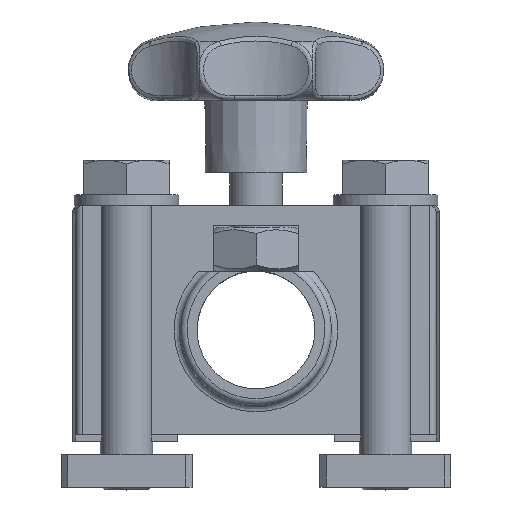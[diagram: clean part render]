
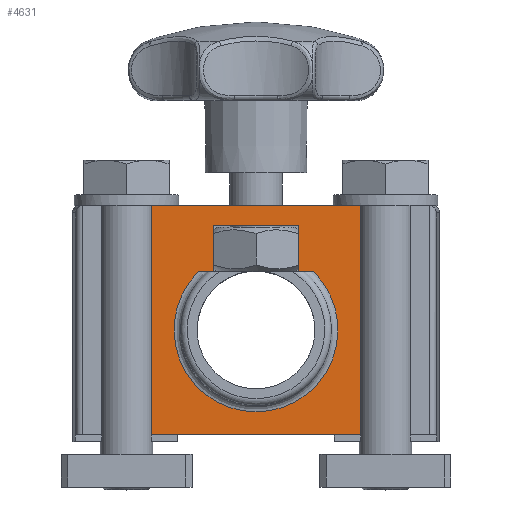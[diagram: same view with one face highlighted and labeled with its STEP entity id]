
A CAD part, top view. The second image highlights one B-rep face of the part: STEP entity #4631.
In plain terms, the highlighted planar face has unit normal (0, 0, 1).
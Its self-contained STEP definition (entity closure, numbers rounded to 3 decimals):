
#1342=CARTESIAN_POINT('',(-16.,-63.,7.0));
#1343=VERTEX_POINT('',#1342);
#1350=CARTESIAN_POINT('',(-16.,-28.,7.0));
#1351=VERTEX_POINT('',#1350);
#1352=CARTESIAN_POINT('',(-16.,-28.,7.0));
#1353=DIRECTION('',(0.0,-1.0,0.0));
#1354=VECTOR('',#1353,35.0);
#1355=LINE('',#1352,#1354);
#1356=EDGE_CURVE('',#1351,#1343,#1355,.T.);
#2512=CARTESIAN_POINT('',(16.,-28.,7.));
#2513=VERTEX_POINT('',#2512);
#2514=CARTESIAN_POINT('',(16.,-28.,7.));
#2515=DIRECTION('',(-1.0,0.0,0.0));
#2516=VECTOR('',#2515,32.);
#2517=LINE('',#2514,#2516);
#2518=EDGE_CURVE('',#2513,#1351,#2517,.T.);
#3168=CARTESIAN_POINT('',(8.777,-38.1,7.));
#3169=VERTEX_POINT('',#3168);
#3183=CARTESIAN_POINT('',(6.5,-38.1,7.));
#3184=VERTEX_POINT('',#3183);
#3185=CARTESIAN_POINT('',(6.5,-38.1,7.));
#3186=DIRECTION('',(1.0,0.0,0.0));
#3187=VECTOR('',#3186,2.277);
#3188=LINE('',#3185,#3187);
#3189=EDGE_CURVE('',#3184,#3169,#3188,.T.);
#3351=CARTESIAN_POINT('',(-6.5,-38.1,7.));
#3352=VERTEX_POINT('',#3351);
#3359=CARTESIAN_POINT('',(-8.777,-38.1,7.));
#3360=VERTEX_POINT('',#3359);
#3361=CARTESIAN_POINT('',(-6.5,-38.1,7.));
#3362=DIRECTION('',(-1.0,0.0,0.0));
#3363=VECTOR('',#3362,2.277);
#3364=LINE('',#3361,#3363);
#3365=EDGE_CURVE('',#3352,#3360,#3364,.T.);
#4046=CARTESIAN_POINT('',(0.,-47.,7.));
#4047=DIRECTION('',(0.0,0.0,1.0));
#4048=DIRECTION('',(0.0,-1.0,0.0));
#4049=AXIS2_PLACEMENT_3D('',#4046,#4047,#4048);
#4050=CIRCLE('',#4049,12.5);
#4051=EDGE_CURVE('',#3360,#3169,#4050,.T.);
#4544=CARTESIAN_POINT('',(16.,-63.,7.));
#4545=VERTEX_POINT('',#4544);
#4552=CARTESIAN_POINT('',(16.,-63.,7.));
#4553=DIRECTION('',(-1.0,0.0,0.0));
#4554=VECTOR('',#4553,32.);
#4555=LINE('',#4552,#4554);
#4556=EDGE_CURVE('',#4545,#1343,#4555,.T.);
#4575=CARTESIAN_POINT('',(6.5,-31.,7.));
#4576=VERTEX_POINT('',#4575);
#4577=CARTESIAN_POINT('',(6.5,-38.1,7.));
#4578=DIRECTION('',(0.0,1.0,0.0));
#4579=VECTOR('',#4578,7.1);
#4580=LINE('',#4577,#4579);
#4581=EDGE_CURVE('',#3184,#4576,#4580,.T.);
#4595=CARTESIAN_POINT('',(28.,-63.,7.));
#4596=DIRECTION('',(0.0,0.0,1.0));
#4597=DIRECTION('',(0.0,-1.0,0.0));
#4598=AXIS2_PLACEMENT_3D('',#4595,#4596,#4597);
#4599=PLANE('',#4598);
#4600=ORIENTED_EDGE('',*,*,#1356,.T.);
#4601=ORIENTED_EDGE('',*,*,#4556,.F.);
#4602=CARTESIAN_POINT('',(16.,-63.,7.));
#4603=DIRECTION('',(0.0,1.0,0.0));
#4604=VECTOR('',#4603,35.0);
#4605=LINE('',#4602,#4604);
#4606=EDGE_CURVE('',#4545,#2513,#4605,.T.);
#4607=ORIENTED_EDGE('',*,*,#4606,.T.);
#4608=ORIENTED_EDGE('',*,*,#2518,.T.);
#4609=EDGE_LOOP('',(#4600,#4601,#4607,#4608));
#4610=FACE_OUTER_BOUND('',#4609,.T.);
#4611=ORIENTED_EDGE('',*,*,#3365,.F.);
#4612=CARTESIAN_POINT('',(-6.5,-31.,7.));
#4613=VERTEX_POINT('',#4612);
#4614=CARTESIAN_POINT('',(-6.5,-31.,7.));
#4615=DIRECTION('',(0.0,-1.0,0.0));
#4616=VECTOR('',#4615,7.1);
#4617=LINE('',#4614,#4616);
#4618=EDGE_CURVE('',#4613,#3352,#4617,.T.);
#4619=ORIENTED_EDGE('',*,*,#4618,.F.);
#4620=CARTESIAN_POINT('',(-6.5,-31.,7.));
#4621=DIRECTION('',(1.0,0.0,0.0));
#4622=VECTOR('',#4621,13.);
#4623=LINE('',#4620,#4622);
#4624=EDGE_CURVE('',#4613,#4576,#4623,.T.);
#4625=ORIENTED_EDGE('',*,*,#4624,.T.);
#4626=ORIENTED_EDGE('',*,*,#4581,.F.);
#4627=ORIENTED_EDGE('',*,*,#3189,.T.);
#4628=ORIENTED_EDGE('',*,*,#4051,.F.);
#4629=EDGE_LOOP('',(#4611,#4619,#4625,#4626,#4627,#4628));
#4630=FACE_BOUND('',#4629,.T.);
#4631=ADVANCED_FACE('',(#4610,#4630),#4599,.T.);
